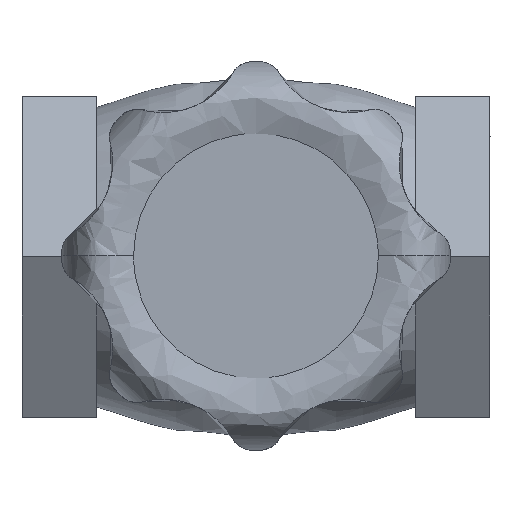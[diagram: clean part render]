
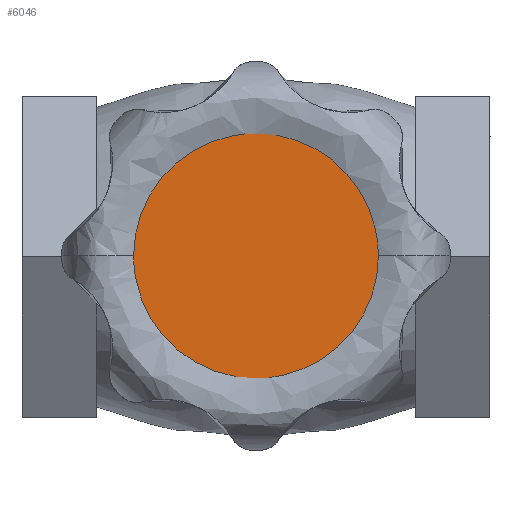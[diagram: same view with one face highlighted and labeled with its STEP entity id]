
A CAD part, top view. The second image highlights one B-rep face of the part: STEP entity #6046.
In plain terms, the highlighted free-form (B-spline) face has degree [1, 1] with [2, 2] control points.
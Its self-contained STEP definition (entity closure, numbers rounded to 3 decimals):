
#2170=CARTESIAN_POINT('',(-26.155,0.,157.308));
#2171=VERTEX_POINT('',#2170);
#2180=CARTESIAN_POINT('',(0.,26.155,157.308));
#2181=VERTEX_POINT('',#2180);
#2182=CARTESIAN_POINT('',(-26.155,0.,157.308));
#2183=CARTESIAN_POINT('',(-26.155,10.834,157.308));
#2184=CARTESIAN_POINT('',(-18.494,18.494,157.308));
#2185=CARTESIAN_POINT('',(-10.834,26.155,157.308));
#2186=CARTESIAN_POINT('',(0.,26.155,157.308));
#2194=(BOUNDED_CURVE()B_SPLINE_CURVE(2,(#2182,#2183,#2184,#2185,#2186),.UNSPECIFIED.,.F.,.U.)B_SPLINE_CURVE_WITH_KNOTS((3,2,3),(0.,0.5,1.),.UNSPECIFIED.)CURVE()GEOMETRIC_REPRESENTATION_ITEM()RATIONAL_B_SPLINE_CURVE((1.,0.924,1.,0.924,1.))REPRESENTATION_ITEM(''));
#2195=EDGE_CURVE('',#2171,#2181,#2194,.T.);
#2197=CARTESIAN_POINT('',(26.155,0.,157.308));
#2198=VERTEX_POINT('',#2197);
#2199=CARTESIAN_POINT('',(0.,26.155,157.308));
#2200=CARTESIAN_POINT('',(2.086,26.155,157.308));
#2201=CARTESIAN_POINT('',(5.296,25.769,157.308));
#2202=CARTESIAN_POINT('',(9.337,24.502,157.308));
#2203=CARTESIAN_POINT('',(12.362,23.128,157.308));
#2204=CARTESIAN_POINT('',(15.055,21.468,157.308));
#2205=CARTESIAN_POINT('',(18.108,19.025,157.308));
#2206=CARTESIAN_POINT('',(20.681,16.204,157.308));
#2207=CARTESIAN_POINT('',(22.873,12.834,157.308));
#2208=CARTESIAN_POINT('',(24.173,10.128,157.308));
#2209=CARTESIAN_POINT('',(25.237,7.096,157.308));
#2210=CARTESIAN_POINT('',(25.966,3.852,157.308));
#2211=CARTESIAN_POINT('',(26.155,1.284,157.308));
#2212=CARTESIAN_POINT('',(26.155,0.,157.308));
#2213=B_SPLINE_CURVE_WITH_KNOTS('',3,(#2199,#2200,#2201,#2202,#2203,#2204,#2205,#2206,#2207,#2208,#2209,#2210,#2211,#2212),.UNSPECIFIED.,.F.,.U.,(4,1,1,1,1,1,1,1,1,1,1,4),(0.,6.259,9.629,12.678,16.209,19.098,24.394,27.603,31.134,33.381,37.233,41.084),.UNSPECIFIED.);
#2214=EDGE_CURVE('',#2181,#2198,#2213,.T.);
#3603=CARTESIAN_POINT('',(0.,-26.155,157.308));
#3604=VERTEX_POINT('',#3603);
#3605=CARTESIAN_POINT('',(26.155,0.,157.308));
#3606=CARTESIAN_POINT('',(26.155,-1.391,157.308));
#3607=CARTESIAN_POINT('',(25.954,-3.905,157.308));
#3608=CARTESIAN_POINT('',(25.085,-7.721,157.308));
#3609=CARTESIAN_POINT('',(23.849,-10.925,157.308));
#3610=CARTESIAN_POINT('',(22.23,-13.887,157.308));
#3611=CARTESIAN_POINT('',(20.009,-17.042,157.308));
#3612=CARTESIAN_POINT('',(17.05,-20.018,157.308));
#3613=CARTESIAN_POINT('',(13.14,-22.754,157.308));
#3614=CARTESIAN_POINT('',(9.259,-24.604,157.308));
#3615=CARTESIAN_POINT('',(4.707,-25.864,157.308));
#3616=CARTESIAN_POINT('',(1.658,-26.155,157.308));
#3617=CARTESIAN_POINT('',(0.,-26.155,157.308));
#3618=B_SPLINE_CURVE_WITH_KNOTS('',3,(#3605,#3606,#3607,#3608,#3609,#3610,#3611,#3612,#3613,#3614,#3615,#3616,#3617),.UNSPECIFIED.,.F.,.U.,(4,1,1,1,1,1,1,1,1,1,4),(0.,4.173,7.543,11.715,14.444,17.653,23.27,26.961,31.936,36.109,41.084),.UNSPECIFIED.);
#3619=EDGE_CURVE('',#2198,#3604,#3618,.T.);
#3621=CARTESIAN_POINT('',(0.,-26.155,157.308));
#3622=CARTESIAN_POINT('',(-10.834,-26.155,157.308));
#3623=CARTESIAN_POINT('',(-18.494,-18.494,157.308));
#3624=CARTESIAN_POINT('',(-26.155,-10.834,157.308));
#3625=CARTESIAN_POINT('',(-26.155,0.,157.308));
#3633=(BOUNDED_CURVE()B_SPLINE_CURVE(2,(#3621,#3622,#3623,#3624,#3625),.UNSPECIFIED.,.F.,.U.)B_SPLINE_CURVE_WITH_KNOTS((3,2,3),(0.,0.5,1.),.UNSPECIFIED.)CURVE()GEOMETRIC_REPRESENTATION_ITEM()RATIONAL_B_SPLINE_CURVE((1.,0.924,1.,0.924,1.))REPRESENTATION_ITEM(''));
#3634=EDGE_CURVE('',#3604,#2171,#3633,.T.);
#6035=CARTESIAN_POINT('',(28.768,-28.768,157.308));
#6036=CARTESIAN_POINT('',(-28.768,-28.768,157.308));
#6037=CARTESIAN_POINT('',(28.768,28.768,157.308));
#6038=CARTESIAN_POINT('',(-28.768,28.768,157.308));
#6039=B_SPLINE_SURFACE_WITH_KNOTS('',1,1,((#6035,#6037),(#6036,#6038)),.UNSPECIFIED.,.F.,.F.,.U.,(2,2),(2,2),(0.,57.536),(0.,57.536),.UNSPECIFIED.);
#6040=ORIENTED_EDGE('',*,*,#3634,.F.);
#6041=ORIENTED_EDGE('',*,*,#3619,.F.);
#6042=ORIENTED_EDGE('',*,*,#2214,.F.);
#6043=ORIENTED_EDGE('',*,*,#2195,.F.);
#6044=EDGE_LOOP('',(#6040,#6041,#6042,#6043));
#6045=FACE_OUTER_BOUND('',#6044,.T.);
#6046=ADVANCED_FACE('',(#6045),#6039,.F.);
